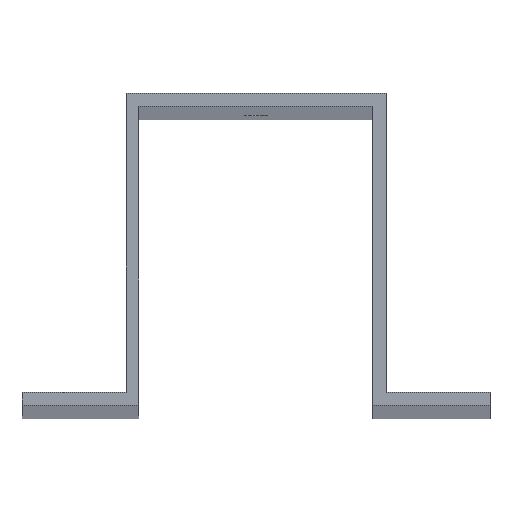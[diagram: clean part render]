
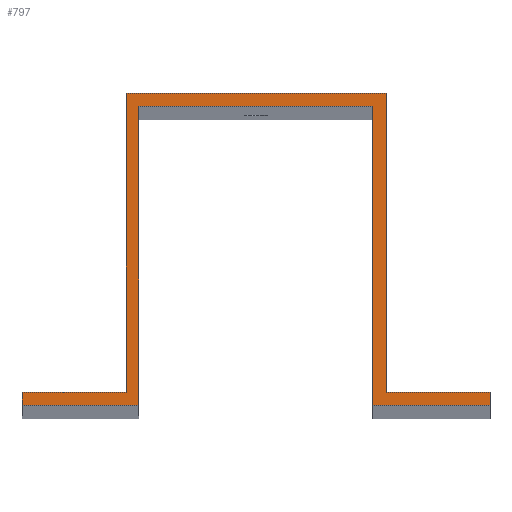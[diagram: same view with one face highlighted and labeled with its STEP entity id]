
A CAD part, top view. The second image highlights one B-rep face of the part: STEP entity #797.
In plain terms, the highlighted planar face has unit normal (0, 0, 1).
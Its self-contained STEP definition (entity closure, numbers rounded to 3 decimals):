
#44 = VERTEX_POINT ( 'NONE', #509 ) ;
#47 = VERTEX_POINT ( 'NONE', #491 ) ;
#48 = VERTEX_POINT ( 'NONE', #497 ) ;
#92 = FACE_OUTER_BOUND ( 'NONE', #322, .T. ) ;
#161 = VECTOR ( 'NONE', #435, 1000. ) ;
#165 = LINE ( 'NONE', #426, #161 ) ;
#166 = VECTOR ( 'NONE', #427, 1000. ) ;
#172 = LINE ( 'NONE', #437, #166 ) ;
#173 = VECTOR ( 'NONE', #443, 1000. ) ;
#177 = LINE ( 'NONE', #433, #173 ) ;
#185 = VECTOR ( 'NONE', #563, 1000. ) ;
#190 = LINE ( 'NONE', #584, #185 ) ;
#191 = VECTOR ( 'NONE', #553, 1000. ) ;
#193 = LINE ( 'NONE', #558, #191 ) ;
#195 = VERTEX_POINT ( 'NONE', #489 ) ;
#200 = VECTOR ( 'NONE', #588, 1000. ) ;
#201 = VERTEX_POINT ( 'NONE', #488 ) ;
#209 = VECTOR ( 'NONE', #570, 1000. ) ;
#212 = LINE ( 'NONE', #556, #200 ) ;
#215 = LINE ( 'NONE', #576, #209 ) ;
#220 = VECTOR ( 'NONE', #452, 1000. ) ;
#227 = LINE ( 'NONE', #448, #220 ) ;
#230 = VECTOR ( 'NONE', #455, 1000. ) ;
#238 = VECTOR ( 'NONE', #482, 1000. ) ;
#242 = LINE ( 'NONE', #453, #230 ) ;
#246 = VECTOR ( 'NONE', #450, 1000. ) ;
#250 = LINE ( 'NONE', #478, #238 ) ;
#254 = LINE ( 'NONE', #464, #255 ) ;
#255 = VECTOR ( 'NONE', #477, 1000. ) ;
#257 = LINE ( 'NONE', #446, #246 ) ;
#260 = ORIENTED_EDGE ( 'NONE', *, *, #721, .T. ) ;
#261 = ORIENTED_EDGE ( 'NONE', *, *, #727, .T. ) ;
#262 = ORIENTED_EDGE ( 'NONE', *, *, #724, .T. ) ;
#263 = VERTEX_POINT ( 'NONE', #493 ) ;
#264 = ORIENTED_EDGE ( 'NONE', *, *, #718, .T. ) ;
#265 = ORIENTED_EDGE ( 'NONE', *, *, #754, .T. ) ;
#266 = ORIENTED_EDGE ( 'NONE', *, *, #731, .T. ) ;
#267 = ORIENTED_EDGE ( 'NONE', *, *, #758, .T. ) ;
#268 = ORIENTED_EDGE ( 'NONE', *, *, #761, .T. ) ;
#278 = ORIENTED_EDGE ( 'NONE', *, *, #737, .T. ) ;
#288 = ORIENTED_EDGE ( 'NONE', *, *, #745, .T. ) ;
#291 = ORIENTED_EDGE ( 'NONE', *, *, #741, .T. ) ;
#292 = VERTEX_POINT ( 'NONE', #505 ) ;
#313 = ORIENTED_EDGE ( 'NONE', *, *, #747, .T. ) ;
#322 = EDGE_LOOP ( 'NONE', ( #268, #267, #265, #264, #260, #262, #261, #266, #278, #291, #288, #313 ) ) ;
#344 = VERTEX_POINT ( 'NONE', #502 ) ;
#347 = VERTEX_POINT ( 'NONE', #517 ) ;
#371 = VERTEX_POINT ( 'NONE', #508 ) ;
#385 = VERTEX_POINT ( 'NONE', #483 ) ;
#404 = VERTEX_POINT ( 'NONE', #461 ) ;
#426 = CARTESIAN_POINT ( 'NONE',  ( 90., 5., 2900. ) ) ;
#427 = DIRECTION ( 'NONE',  ( 0., 1., 0. ) ) ;
#433 = CARTESIAN_POINT ( 'NONE',  ( 50., 120., 2900. ) ) ;
#435 = DIRECTION ( 'NONE',  ( -1., 0., 0. ) ) ;
#437 = CARTESIAN_POINT ( 'NONE',  ( 50., 5., 2900. ) ) ;
#443 = DIRECTION ( 'NONE',  ( -1., 0., 0. ) ) ;
#446 = CARTESIAN_POINT ( 'NONE',  ( -50., 5., 2900. ) ) ;
#448 = CARTESIAN_POINT ( 'NONE',  ( -45., 0., 2900. ) ) ;
#450 = DIRECTION ( 'NONE',  ( -1., 0., 0. ) ) ;
#452 = DIRECTION ( 'NONE',  ( 0., 1., 0. ) ) ;
#453 = CARTESIAN_POINT ( 'NONE',  ( -90., 0., 2900. ) ) ;
#455 = DIRECTION ( 'NONE',  ( 1., 0., 0. ) ) ;
#461 = CARTESIAN_POINT ( 'NONE',  ( -90., 5., 2900. ) ) ;
#464 = CARTESIAN_POINT ( 'NONE',  ( -50., 120., 2900. ) ) ;
#477 = DIRECTION ( 'NONE',  ( 0., -1., 0. ) ) ;
#478 = CARTESIAN_POINT ( 'NONE',  ( -90., 5., 2900. ) ) ;
#482 = DIRECTION ( 'NONE',  ( 0., -1., 0. ) ) ;
#483 = CARTESIAN_POINT ( 'NONE',  ( 50., 120., 2900. ) ) ;
#488 = CARTESIAN_POINT ( 'NONE',  ( 45., 0., 2900. ) ) ;
#489 = CARTESIAN_POINT ( 'NONE',  ( -45., 115., 2900. ) ) ;
#491 = CARTESIAN_POINT ( 'NONE',  ( 45., 115., 2900. ) ) ;
#493 = CARTESIAN_POINT ( 'NONE',  ( -45., 0., 2900. ) ) ;
#497 = CARTESIAN_POINT ( 'NONE',  ( 90., 0., 2900. ) ) ;
#502 = CARTESIAN_POINT ( 'NONE',  ( 50., 5., 2900. ) ) ;
#505 = CARTESIAN_POINT ( 'NONE',  ( -50., 5., 2900. ) ) ;
#508 = CARTESIAN_POINT ( 'NONE',  ( 90., 5., 2900. ) ) ;
#509 = CARTESIAN_POINT ( 'NONE',  ( -90., 0., 2900. ) ) ;
#517 = CARTESIAN_POINT ( 'NONE',  ( -50., 120., 2900. ) ) ;
#553 = DIRECTION ( 'NONE',  ( 1., 0., 0. ) ) ;
#556 = CARTESIAN_POINT ( 'NONE',  ( 45., 115., 2900. ) ) ;
#558 = CARTESIAN_POINT ( 'NONE',  ( 45., 0., 2900. ) ) ;
#563 = DIRECTION ( 'NONE',  ( 0., 1., 0. ) ) ;
#570 = DIRECTION ( 'NONE',  ( 1., 0., 0. ) ) ;
#576 = CARTESIAN_POINT ( 'NONE',  ( -45., 115., 2900. ) ) ;
#584 = CARTESIAN_POINT ( 'NONE',  ( 90., 0., 2900. ) ) ;
#588 = DIRECTION ( 'NONE',  ( 0., -1., 0. ) ) ;
#612 = DIRECTION ( 'NONE',  ( -1., 0., 0. ) ) ;
#613 = DIRECTION ( 'NONE',  ( 0., 0., -1. ) ) ;
#614 = PLANE ( 'NONE',  #677 ) ;
#621 = CARTESIAN_POINT ( 'NONE',  ( 50., 5., 2900. ) ) ;
#677 = AXIS2_PLACEMENT_3D ( 'NONE', #621, #613, #612 ) ;
#718 = EDGE_CURVE ( 'NONE', #347, #292, #254, .T. ) ;
#721 = EDGE_CURVE ( 'NONE', #292, #404, #257, .T. ) ;
#724 = EDGE_CURVE ( 'NONE', #404, #44, #250, .T. ) ;
#727 = EDGE_CURVE ( 'NONE', #44, #263, #242, .T. ) ;
#731 = EDGE_CURVE ( 'NONE', #263, #195, #227, .T. ) ;
#737 = EDGE_CURVE ( 'NONE', #195, #47, #215, .T. ) ;
#741 = EDGE_CURVE ( 'NONE', #47, #201, #212, .T. ) ;
#745 = EDGE_CURVE ( 'NONE', #201, #48, #193, .T. ) ;
#747 = EDGE_CURVE ( 'NONE', #48, #371, #190, .T. ) ;
#754 = EDGE_CURVE ( 'NONE', #385, #347, #177, .T. ) ;
#758 = EDGE_CURVE ( 'NONE', #344, #385, #172, .T. ) ;
#761 = EDGE_CURVE ( 'NONE', #371, #344, #165, .T. ) ;
#797 = ADVANCED_FACE ( 'NONE', ( #92 ), #614, .F. ) ;
